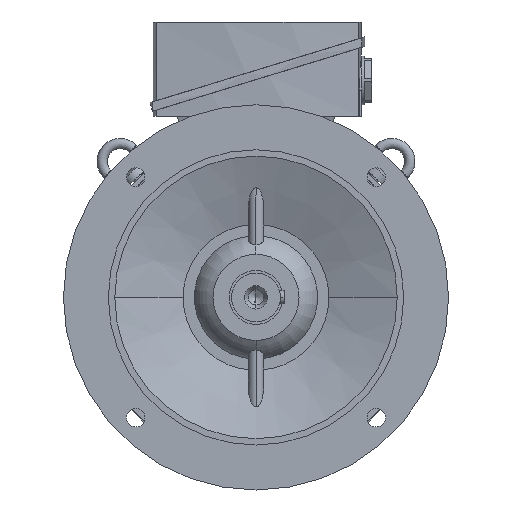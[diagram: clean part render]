
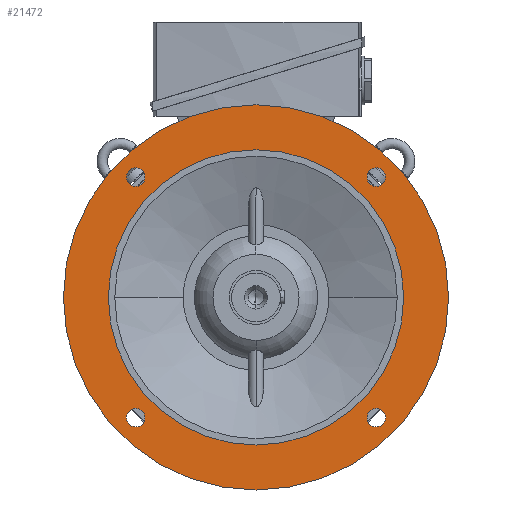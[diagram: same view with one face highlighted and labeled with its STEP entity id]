
A CAD part, left-side view. The second image highlights one B-rep face of the part: STEP entity #21472.
In plain terms, the highlighted planar face has unit normal (-1, 0, 0).
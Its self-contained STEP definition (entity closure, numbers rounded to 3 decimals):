
#480 = DIRECTION ( 'NONE',  ( 1., 0., 0. ) ) ;
#549 = FACE_BOUND ( 'NONE', #14603, .T. ) ;
#1039 = DIRECTION ( 'NONE',  ( 1., 0., 0. ) ) ;
#1580 = VERTEX_POINT ( 'NONE', #14550 ) ;
#1655 = AXIS2_PLACEMENT_3D ( 'NONE', #20963, #24054, #15026 ) ;
#1726 = CIRCLE ( 'NONE', #18782, 7.25 ) ;
#1975 = CARTESIAN_POINT ( 'NONE',  ( -50.5, -98.818, 98.818 ) ) ;
#2866 = DIRECTION ( 'NONE',  ( 0., 1., 0. ) ) ;
#2950 = VERTEX_POINT ( 'NONE', #18509 ) ;
#3963 = DIRECTION ( 'NONE',  ( 0., -0.707, -0.707 ) ) ;
#4100 = CARTESIAN_POINT ( 'NONE',  ( -50.5, -150., 0. ) ) ;
#4730 = FACE_BOUND ( 'NONE', #7460, .T. ) ;
#4767 = EDGE_LOOP ( 'NONE', ( #7359, #10442 ) ) ;
#4976 = CIRCLE ( 'NONE', #35323, 7.25 ) ;
#5139 = DIRECTION ( 'NONE',  ( 0., 0.707, -0.707 ) ) ;
#5519 = DIRECTION ( 'NONE',  ( 0., 0.707, 0.707 ) ) ;
#5991 = AXIS2_PLACEMENT_3D ( 'NONE', #17542, #11681, #2866 ) ;
#6651 = CIRCLE ( 'NONE', #24219, 7.25 ) ;
#6751 = DIRECTION ( 'NONE',  ( 0., 1., 0. ) ) ;
#6790 = EDGE_CURVE ( 'NONE', #16340, #16042, #36900, .T. ) ;
#7054 = FACE_BOUND ( 'NONE', #25234, .T. ) ;
#7359 = ORIENTED_EDGE ( 'NONE', *, *, #18298, .T. ) ;
#7460 = EDGE_LOOP ( 'NONE', ( #33519, #20993 ) ) ;
#7977 = EDGE_CURVE ( 'NONE', #2950, #23156, #37816, .T. ) ;
#8754 = CARTESIAN_POINT ( 'NONE',  ( -50.5, -98.818, -98.818 ) ) ;
#9092 = EDGE_LOOP ( 'NONE', ( #28154, #27716 ) ) ;
#9299 = DIRECTION ( 'NONE',  ( 0., -0.707, -0.707 ) ) ;
#9384 = DIRECTION ( 'NONE',  ( 0., 1., 0. ) ) ;
#9662 = CARTESIAN_POINT ( 'NONE',  ( -50.5, 88.565, -88.565 ) ) ;
#9693 = ORIENTED_EDGE ( 'NONE', *, *, #11497, .T. ) ;
#9879 = CARTESIAN_POINT ( 'NONE',  ( -50.5, -93.692, -93.692 ) ) ;
#10385 = CARTESIAN_POINT ( 'NONE',  ( -50.5, -93.692, 93.692 ) ) ;
#10442 = ORIENTED_EDGE ( 'NONE', *, *, #15580, .T. ) ;
#10774 = DIRECTION ( 'NONE',  ( 1., 0., 0. ) ) ;
#11155 = EDGE_CURVE ( 'NONE', #16042, #16340, #4976, .T. ) ;
#11497 = EDGE_CURVE ( 'NONE', #19765, #24108, #1726, .T. ) ;
#11681 = DIRECTION ( 'NONE',  ( 1., 0., 0. ) ) ;
#12543 = CARTESIAN_POINT ( 'NONE',  ( -50.5, -93.692, -93.692 ) ) ;
#12620 = EDGE_LOOP ( 'NONE', ( #18243, #15912 ) ) ;
#12633 = CARTESIAN_POINT ( 'NONE',  ( -50.5, 0., 0. ) ) ;
#12718 = CARTESIAN_POINT ( 'NONE',  ( -50.5, 88.565, 88.565 ) ) ;
#12769 = AXIS2_PLACEMENT_3D ( 'NONE', #36092, #32908, #6751 ) ;
#12849 = CARTESIAN_POINT ( 'NONE',  ( -50.5, 98.818, 98.818 ) ) ;
#13240 = EDGE_CURVE ( 'NONE', #25727, #38075, #29197, .T. ) ;
#13280 = AXIS2_PLACEMENT_3D ( 'NONE', #30419, #1039, #21657 ) ;
#13492 = DIRECTION ( 'NONE',  ( 1., 0., 0. ) ) ;
#13498 = CARTESIAN_POINT ( 'NONE',  ( -50.5, 93.692, -93.692 ) ) ;
#13986 = VERTEX_POINT ( 'NONE', #9662 ) ;
#14550 = CARTESIAN_POINT ( 'NONE',  ( -50.5, -115., 0. ) ) ;
#14603 = EDGE_LOOP ( 'NONE', ( #30221, #22670 ) ) ;
#15026 = DIRECTION ( 'NONE',  ( 0., 0.707, 0.707 ) ) ;
#15213 = CARTESIAN_POINT ( 'NONE',  ( -50.5, 115., 0. ) ) ;
#15483 = DIRECTION ( 'NONE',  ( 0., 0., 1. ) ) ;
#15580 = EDGE_CURVE ( 'NONE', #1580, #16739, #19749, .T. ) ;
#15912 = ORIENTED_EDGE ( 'NONE', *, *, #24007, .T. ) ;
#16042 = VERTEX_POINT ( 'NONE', #12849 ) ;
#16297 = AXIS2_PLACEMENT_3D ( 'NONE', #19393, #13492, #33981 ) ;
#16340 = VERTEX_POINT ( 'NONE', #12718 ) ;
#16739 = VERTEX_POINT ( 'NONE', #15213 ) ;
#17068 = AXIS2_PLACEMENT_3D ( 'NONE', #37416, #31289, #5139 ) ;
#17542 = CARTESIAN_POINT ( 'NONE',  ( -50.5, 0., 0. ) ) ;
#18243 = ORIENTED_EDGE ( 'NONE', *, *, #38162, .T. ) ;
#18298 = EDGE_CURVE ( 'NONE', #16739, #1580, #29764, .T. ) ;
#18509 = CARTESIAN_POINT ( 'NONE',  ( -50.5, -88.565, -88.565 ) ) ;
#18648 = CIRCLE ( 'NONE', #13280, 7.25 ) ;
#18782 = AXIS2_PLACEMENT_3D ( 'NONE', #10385, #10774, #34106 ) ;
#19393 = CARTESIAN_POINT ( 'NONE',  ( -50.5, 0., 0. ) ) ;
#19749 = CIRCLE ( 'NONE', #28508, 115. ) ;
#19765 = VERTEX_POINT ( 'NONE', #1975 ) ;
#20353 = VERTEX_POINT ( 'NONE', #34578 ) ;
#20442 = CARTESIAN_POINT ( 'NONE',  ( -50.5, 93.692, 93.692 ) ) ;
#20963 = CARTESIAN_POINT ( 'NONE',  ( -50.5, 93.692, 93.692 ) ) ;
#20993 = ORIENTED_EDGE ( 'NONE', *, *, #6790, .T. ) ;
#21172 = AXIS2_PLACEMENT_3D ( 'NONE', #9879, #30239, #3963 ) ;
#21472 = ADVANCED_FACE ( 'NONE', ( #26856, #549, #28705, #4730, #7054, #21799 ), #27221, .T. ) ;
#21538 = DIRECTION ( 'NONE',  ( -1., 0., 0. ) ) ;
#21657 = DIRECTION ( 'NONE',  ( 0., -0.707, 0.707 ) ) ;
#21799 = FACE_BOUND ( 'NONE', #4767, .T. ) ;
#22670 = ORIENTED_EDGE ( 'NONE', *, *, #7977, .T. ) ;
#22718 = EDGE_CURVE ( 'NONE', #38075, #25727, #37092, .T. ) ;
#23156 = VERTEX_POINT ( 'NONE', #8754 ) ;
#23401 = DIRECTION ( 'NONE',  ( 1., 0., 0. ) ) ;
#24007 = EDGE_CURVE ( 'NONE', #13986, #20353, #34772, .T. ) ;
#24054 = DIRECTION ( 'NONE',  ( 1., 0., 0. ) ) ;
#24108 = VERTEX_POINT ( 'NONE', #37762 ) ;
#24219 = AXIS2_PLACEMENT_3D ( 'NONE', #12543, #33147, #9299 ) ;
#25234 = EDGE_LOOP ( 'NONE', ( #9693, #36620 ) ) ;
#25727 = VERTEX_POINT ( 'NONE', #28281 ) ;
#26856 = FACE_OUTER_BOUND ( 'NONE', #9092, .T. ) ;
#27221 = PLANE ( 'NONE',  #34535 ) ;
#27716 = ORIENTED_EDGE ( 'NONE', *, *, #22718, .F. ) ;
#27943 = AXIS2_PLACEMENT_3D ( 'NONE', #13498, #34117, #37016 ) ;
#28154 = ORIENTED_EDGE ( 'NONE', *, *, #13240, .F. ) ;
#28281 = CARTESIAN_POINT ( 'NONE',  ( -50.5, 150., 0. ) ) ;
#28508 = AXIS2_PLACEMENT_3D ( 'NONE', #12633, #480, #9384 ) ;
#28705 = FACE_BOUND ( 'NONE', #12620, .T. ) ;
#29197 = CIRCLE ( 'NONE', #5991, 150. ) ;
#29764 = CIRCLE ( 'NONE', #12769, 115. ) ;
#30221 = ORIENTED_EDGE ( 'NONE', *, *, #35390, .T. ) ;
#30239 = DIRECTION ( 'NONE',  ( 1., 0., 0. ) ) ;
#30419 = CARTESIAN_POINT ( 'NONE',  ( -50.5, -93.692, 93.692 ) ) ;
#31289 = DIRECTION ( 'NONE',  ( 1., 0., 0. ) ) ;
#31715 = EDGE_CURVE ( 'NONE', #24108, #19765, #18648, .T. ) ;
#32908 = DIRECTION ( 'NONE',  ( 1., 0., 0. ) ) ;
#33147 = DIRECTION ( 'NONE',  ( 1., 0., 0. ) ) ;
#33149 = CARTESIAN_POINT ( 'NONE',  ( -50.5, 132.5, 0. ) ) ;
#33519 = ORIENTED_EDGE ( 'NONE', *, *, #11155, .T. ) ;
#33981 = DIRECTION ( 'NONE',  ( 0., 1., 0. ) ) ;
#34106 = DIRECTION ( 'NONE',  ( 0., -0.707, 0.707 ) ) ;
#34117 = DIRECTION ( 'NONE',  ( 1., 0., 0. ) ) ;
#34159 = CIRCLE ( 'NONE', #17068, 7.25 ) ;
#34535 = AXIS2_PLACEMENT_3D ( 'NONE', #33149, #21538, #15483 ) ;
#34578 = CARTESIAN_POINT ( 'NONE',  ( -50.5, 98.818, -98.818 ) ) ;
#34772 = CIRCLE ( 'NONE', #27943, 7.25 ) ;
#35323 = AXIS2_PLACEMENT_3D ( 'NONE', #20442, #23401, #5519 ) ;
#35390 = EDGE_CURVE ( 'NONE', #23156, #2950, #6651, .T. ) ;
#36092 = CARTESIAN_POINT ( 'NONE',  ( -50.5, 0., 0. ) ) ;
#36620 = ORIENTED_EDGE ( 'NONE', *, *, #31715, .T. ) ;
#36900 = CIRCLE ( 'NONE', #1655, 7.25 ) ;
#37016 = DIRECTION ( 'NONE',  ( 0., 0.707, -0.707 ) ) ;
#37092 = CIRCLE ( 'NONE', #16297, 150. ) ;
#37416 = CARTESIAN_POINT ( 'NONE',  ( -50.5, 93.692, -93.692 ) ) ;
#37762 = CARTESIAN_POINT ( 'NONE',  ( -50.5, -88.565, 88.565 ) ) ;
#37816 = CIRCLE ( 'NONE', #21172, 7.25 ) ;
#38075 = VERTEX_POINT ( 'NONE', #4100 ) ;
#38162 = EDGE_CURVE ( 'NONE', #20353, #13986, #34159, .T. ) ;
